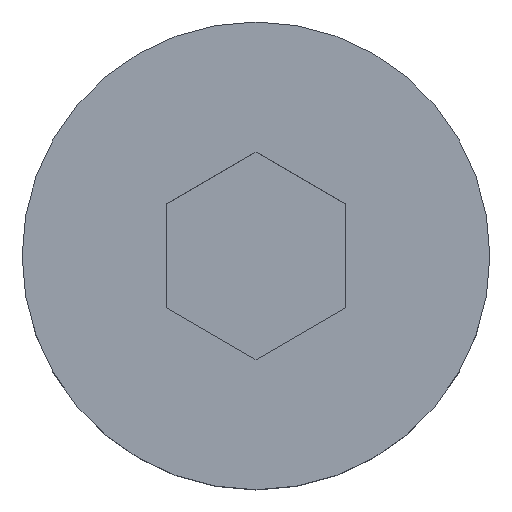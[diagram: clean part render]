
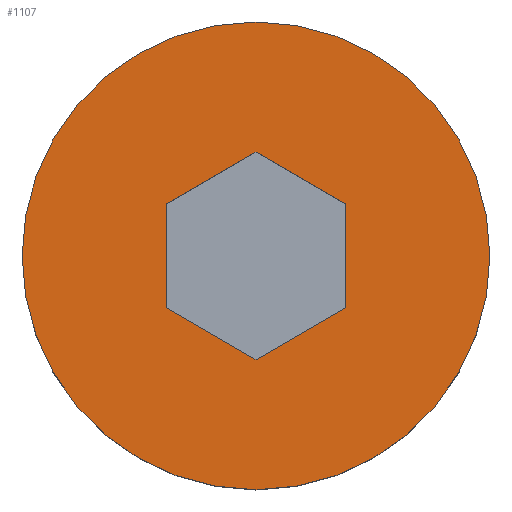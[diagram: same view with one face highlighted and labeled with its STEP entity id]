
A CAD part, top view. The second image highlights one B-rep face of the part: STEP entity #1107.
In plain terms, the highlighted planar face has unit normal (0, 0, 1).
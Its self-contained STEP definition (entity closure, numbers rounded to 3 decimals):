
#14 = VECTOR ( 'NONE', #357, 1000. ) ;
#23 = ORIENTED_EDGE ( 'NONE', *, *, #837, .T. ) ;
#33 = CARTESIAN_POINT ( 'NONE',  ( -5., 2.887, 8. ) ) ;
#36 = CARTESIAN_POINT ( 'NONE',  ( 0., -5.774, 8. ) ) ;
#42 = VECTOR ( 'NONE', #435, 1000. ) ;
#147 = LINE ( 'NONE', #338, #42 ) ;
#151 = CARTESIAN_POINT ( 'NONE',  ( 13., 0., 8. ) ) ;
#196 = ORIENTED_EDGE ( 'NONE', *, *, #540, .F. ) ;
#210 = AXIS2_PLACEMENT_3D ( 'NONE', #327, #967, #424 ) ;
#219 = EDGE_LOOP ( 'NONE', ( #23, #690 ) ) ;
#260 = CARTESIAN_POINT ( 'NONE',  ( 13., 0., 8. ) ) ;
#266 = LINE ( 'NONE', #271, #14 ) ;
#271 = CARTESIAN_POINT ( 'NONE',  ( 12.25, -1.299, 8. ) ) ;
#274 = CARTESIAN_POINT ( 'NONE',  ( 5., 0., 8. ) ) ;
#285 = VECTOR ( 'NONE', #1149, 1000. ) ;
#299 = EDGE_LOOP ( 'NONE', ( #1049, #1191, #1102, #1131, #890, #196 ) ) ;
#310 = LINE ( 'NONE', #704, #285 ) ;
#327 = CARTESIAN_POINT ( 'NONE',  ( 0., 0., 8. ) ) ;
#338 = CARTESIAN_POINT ( 'NONE',  ( 12.25, 1.299, 8. ) ) ;
#343 = DIRECTION ( 'NONE',  ( -1., 0., 0. ) ) ;
#356 = VERTEX_POINT ( 'NONE', #36 ) ;
#357 = DIRECTION ( 'NONE',  ( -0.866, 0.5, 0. ) ) ;
#364 = AXIS2_PLACEMENT_3D ( 'NONE', #462, #1095, #564 ) ;
#365 = CARTESIAN_POINT ( 'NONE',  ( 0., 5.774, 8. ) ) ;
#387 = VERTEX_POINT ( 'NONE', #522 ) ;
#424 = DIRECTION ( 'NONE',  ( 1., 0., 0. ) ) ;
#435 = DIRECTION ( 'NONE',  ( 0.866, 0.5, 0. ) ) ;
#455 = DIRECTION ( 'NONE',  ( -0.866, -0.5, 0. ) ) ;
#458 = CARTESIAN_POINT ( 'NONE',  ( -13., 0., 8. ) ) ;
#462 = CARTESIAN_POINT ( 'NONE',  ( 0., 0., 8. ) ) ;
#463 = VERTEX_POINT ( 'NONE', #33 ) ;
#467 = VERTEX_POINT ( 'NONE', #777 ) ;
#497 = CIRCLE ( 'NONE', #364, 13. ) ;
#504 = FACE_BOUND ( 'NONE', #299, .T. ) ;
#522 = CARTESIAN_POINT ( 'NONE',  ( 5., -2.887, 8. ) ) ;
#524 = EDGE_CURVE ( 'NONE', #745, #555, #855, .T. ) ;
#540 = EDGE_CURVE ( 'NONE', #463, #467, #900, .T. ) ;
#555 = VERTEX_POINT ( 'NONE', #151 ) ;
#564 = DIRECTION ( 'NONE',  ( 1., 0., 0. ) ) ;
#617 = LINE ( 'NONE', #995, #1091 ) ;
#618 = EDGE_CURVE ( 'NONE', #356, #387, #147, .T. ) ;
#660 = CARTESIAN_POINT ( 'NONE',  ( 5., 2.887, 8. ) ) ;
#690 = ORIENTED_EDGE ( 'NONE', *, *, #524, .T. ) ;
#704 = CARTESIAN_POINT ( 'NONE',  ( 7.25, -9.959, 8. ) ) ;
#705 = EDGE_CURVE ( 'NONE', #874, #847, #266, .T. ) ;
#711 = CARTESIAN_POINT ( 'NONE',  ( -5., 0., 8. ) ) ;
#745 = VERTEX_POINT ( 'NONE', #458 ) ;
#759 = EDGE_CURVE ( 'NONE', #387, #874, #1182, .T. ) ;
#764 = EDGE_CURVE ( 'NONE', #847, #463, #617, .T. ) ;
#777 = CARTESIAN_POINT ( 'NONE',  ( -5., -2.887, 8. ) ) ;
#806 = DIRECTION ( 'NONE',  ( 0., -1., 0. ) ) ;
#837 = EDGE_CURVE ( 'NONE', #555, #745, #497, .T. ) ;
#847 = VERTEX_POINT ( 'NONE', #365 ) ;
#855 = CIRCLE ( 'NONE', #210, 13. ) ;
#874 = VERTEX_POINT ( 'NONE', #660 ) ;
#890 = ORIENTED_EDGE ( 'NONE', *, *, #993, .F. ) ;
#896 = DIRECTION ( 'NONE',  ( 0., 0., -1. ) ) ;
#900 = LINE ( 'NONE', #711, #928 ) ;
#928 = VECTOR ( 'NONE', #806, 1000. ) ;
#932 = VECTOR ( 'NONE', #1094, 1000. ) ;
#950 = FACE_OUTER_BOUND ( 'NONE', #219, .T. ) ;
#967 = DIRECTION ( 'NONE',  ( 0., 0., 1. ) ) ;
#973 = PLANE ( 'NONE',  #1138 ) ;
#993 = EDGE_CURVE ( 'NONE', #467, #356, #310, .T. ) ;
#995 = CARTESIAN_POINT ( 'NONE',  ( 7.25, 9.959, 8. ) ) ;
#1049 = ORIENTED_EDGE ( 'NONE', *, *, #764, .F. ) ;
#1091 = VECTOR ( 'NONE', #455, 1000. ) ;
#1094 = DIRECTION ( 'NONE',  ( 0., 1., 0. ) ) ;
#1095 = DIRECTION ( 'NONE',  ( 0., 0., 1. ) ) ;
#1102 = ORIENTED_EDGE ( 'NONE', *, *, #759, .F. ) ;
#1107 = ADVANCED_FACE ( 'NONE', ( #950, #504 ), #973, .F. ) ;
#1131 = ORIENTED_EDGE ( 'NONE', *, *, #618, .F. ) ;
#1138 = AXIS2_PLACEMENT_3D ( 'NONE', #260, #896, #343 ) ;
#1149 = DIRECTION ( 'NONE',  ( 0.866, -0.5, 0. ) ) ;
#1182 = LINE ( 'NONE', #274, #932 ) ;
#1191 = ORIENTED_EDGE ( 'NONE', *, *, #705, .F. ) ;
